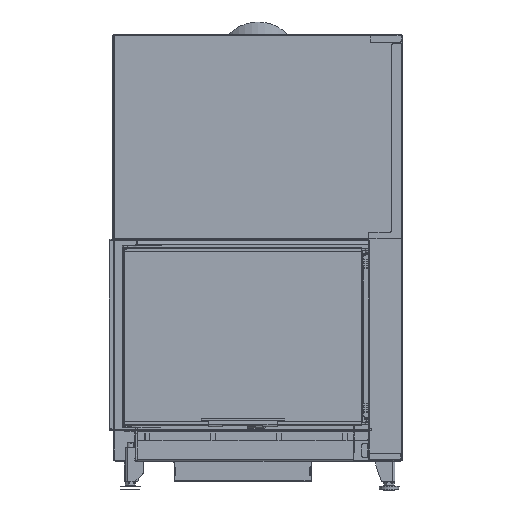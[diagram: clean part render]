
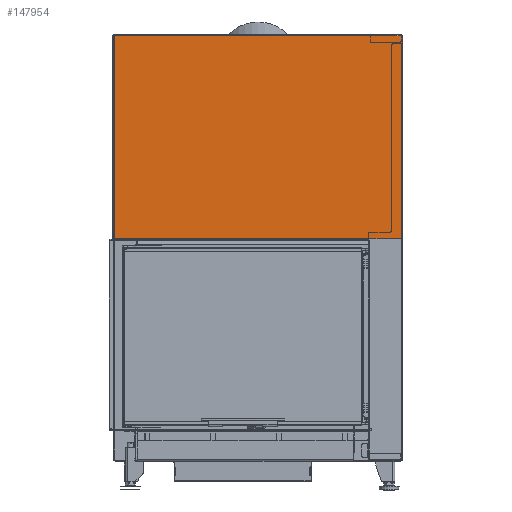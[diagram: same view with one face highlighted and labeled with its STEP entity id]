
A CAD part, front view. The second image highlights one B-rep face of the part: STEP entity #147954.
In plain terms, the highlighted planar face has unit normal (0, -1, 0).
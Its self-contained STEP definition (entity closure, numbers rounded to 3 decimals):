
#3849=LINE('',#215450,#17799);
#3853=LINE('',#215459,#17803);
#3855=LINE('',#215463,#17805);
#7438=LINE('',#228966,#21388);
#7446=LINE('',#228983,#21396);
#7447=LINE('',#228986,#21397);
#7448=LINE('',#228988,#21398);
#7449=LINE('',#228989,#21399);
#17799=VECTOR('',#169378,10.);
#17803=VECTOR('',#169388,10.);
#17805=VECTOR('',#169392,10.);
#21388=VECTOR('',#180453,10.);
#21396=VECTOR('',#180465,10.);
#21397=VECTOR('',#180468,10.);
#21398=VECTOR('',#180469,10.);
#21399=VECTOR('',#180470,10.);
#33222=PLANE('',#158136);
#38887=FACE_OUTER_BOUND('',#46980,.T.);
#46980=EDGE_LOOP('',(#107431,#107432,#107433,#107434,#107435,#107436,#107437,
#107438,#107439,#107440,#107441));
#53222=CIRCLE('',#154393,0.1);
#53224=CIRCLE('',#154398,3.);
#54955=CIRCLE('',#158137,3.);
#60764=VERTEX_POINT('',#215447);
#60765=VERTEX_POINT('',#215449);
#60766=VERTEX_POINT('',#215453);
#60767=VERTEX_POINT('',#215457);
#60768=VERTEX_POINT('',#215461);
#60770=VERTEX_POINT('',#215467);
#64275=VERTEX_POINT('',#228963);
#64276=VERTEX_POINT('',#228965);
#64283=VERTEX_POINT('',#228982);
#64284=VERTEX_POINT('',#228985);
#64285=VERTEX_POINT('',#228987);
#74365=EDGE_CURVE('',#60764,#60765,#3849,.T.);
#74368=EDGE_CURVE('',#60766,#60764,#53222,.T.);
#74370=EDGE_CURVE('',#60767,#60766,#3853,.T.);
#74372=EDGE_CURVE('',#60768,#60767,#3855,.T.);
#74375=EDGE_CURVE('',#60768,#60770,#53224,.T.);
#79940=EDGE_CURVE('',#64275,#64276,#7438,.T.);
#79948=EDGE_CURVE('',#64283,#60770,#7446,.T.);
#79949=EDGE_CURVE('',#64283,#64276,#54955,.T.);
#79950=EDGE_CURVE('',#64284,#64275,#7447,.T.);
#79951=EDGE_CURVE('',#64285,#64284,#7448,.T.);
#79952=EDGE_CURVE('',#60765,#64285,#7449,.T.);
#107431=ORIENTED_EDGE('',*,*,#74375,.T.);
#107432=ORIENTED_EDGE('',*,*,#79948,.F.);
#107433=ORIENTED_EDGE('',*,*,#79949,.T.);
#107434=ORIENTED_EDGE('',*,*,#79940,.F.);
#107435=ORIENTED_EDGE('',*,*,#79950,.F.);
#107436=ORIENTED_EDGE('',*,*,#79951,.F.);
#107437=ORIENTED_EDGE('',*,*,#79952,.F.);
#107438=ORIENTED_EDGE('',*,*,#74365,.F.);
#107439=ORIENTED_EDGE('',*,*,#74368,.F.);
#107440=ORIENTED_EDGE('',*,*,#74370,.F.);
#107441=ORIENTED_EDGE('',*,*,#74372,.F.);
#147954=ADVANCED_FACE('',(#38887),#33222,.F.);
#154393=AXIS2_PLACEMENT_3D('',#215455,#169383,#169384);
#154398=AXIS2_PLACEMENT_3D('',#215469,#169398,#169399);
#158136=AXIS2_PLACEMENT_3D('',#228981,#180463,#180464);
#158137=AXIS2_PLACEMENT_3D('',#228984,#180466,#180467);
#169378=DIRECTION('',(0.,0.,-1.));
#169383=DIRECTION('center_axis',(0.,-1.,
0.));
#169384=DIRECTION('ref_axis',(-1.,0.,0.));
#169388=DIRECTION('',(0.,0.,1.));
#169392=DIRECTION('',(-1.,0.,0.));
#169398=DIRECTION('center_axis',(0.,-1.,
0.));
#169399=DIRECTION('ref_axis',(0.707,0.,-0.707));
#180453=DIRECTION('',(1.,0.,0.));
#180463=DIRECTION('center_axis',(0.,1.,
0.));
#180464=DIRECTION('ref_axis',(-1.,0.,0.));
#180465=DIRECTION('',(0.,0.,-1.));
#180466=DIRECTION('center_axis',(0.,-1.,
0.));
#180467=DIRECTION('ref_axis',(0.707,0.,0.707));
#180468=DIRECTION('',(1.,0.,0.));
#180469=DIRECTION('',(0.,0.,1.));
#180470=DIRECTION('',(-1.,0.,0.));
#215447=CARTESIAN_POINT('',(-87.4,-59.998,582.365));
#215449=CARTESIAN_POINT('',(-87.4,-59.998,582.265));
#215450=CARTESIAN_POINT('',(-87.4,-59.994,715.952));
#215453=CARTESIAN_POINT('',(-87.2,-59.998,582.365));
#215455=CARTESIAN_POINT('Origin',(-87.3,-59.998,582.365));
#215457=CARTESIAN_POINT('',(-87.2,-59.998,582.265));
#215459=CARTESIAN_POINT('',(-87.2,-59.994,716.002));
#215461=CARTESIAN_POINT('',(-3.,-59.998,582.265));
#215463=CARTESIAN_POINT('',(0.,-59.998,582.265));
#215467=CARTESIAN_POINT('',(0.,-59.998,585.265));
#215469=CARTESIAN_POINT('Origin',(-3.,-59.998,585.265));
#228963=CARTESIAN_POINT('',(-84.15,-59.982,1114.265));
#228965=CARTESIAN_POINT('',(-3.,-59.982,1114.265));
#228966=CARTESIAN_POINT('',(-84.15,-59.982,1114.265));
#228981=CARTESIAN_POINT('Origin',(-420.775,-59.99,849.64));
#228982=CARTESIAN_POINT('',(0.,-59.982,1111.265));
#228983=CARTESIAN_POINT('',(0.,-59.982,1114.265));
#228984=CARTESIAN_POINT('Origin',(-3.,-59.982,1111.265));
#228985=CARTESIAN_POINT('',(-754.65,-59.982,1114.265));
#228986=CARTESIAN_POINT('',(-589.088,-59.982,1114.265));
#228987=CARTESIAN_POINT('',(-754.65,-59.998,582.265));
#228988=CARTESIAN_POINT('',(-754.65,-59.994,715.952));
#228989=CARTESIAN_POINT('',(0.,-59.998,582.265));
